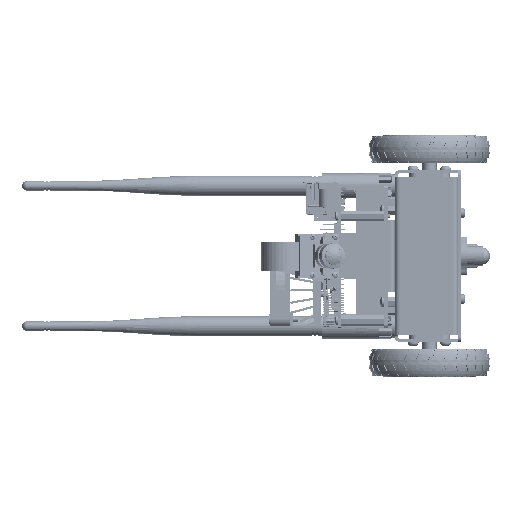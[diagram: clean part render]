
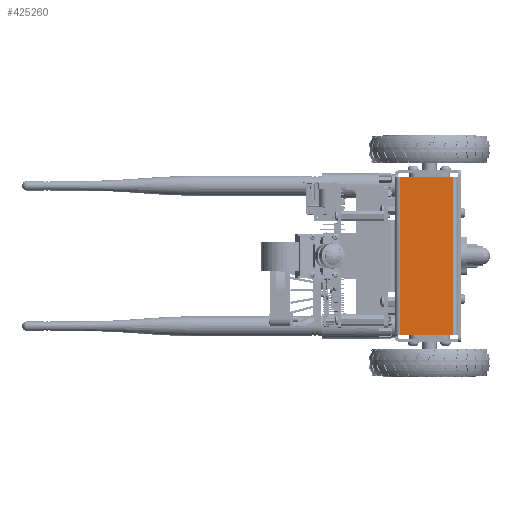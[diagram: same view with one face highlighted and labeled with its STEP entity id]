
A CAD part, left-side view. The second image highlights one B-rep face of the part: STEP entity #425260.
In plain terms, the highlighted planar face has unit normal (-1, 0, 0).
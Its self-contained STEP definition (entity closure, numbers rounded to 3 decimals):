
#17808 = LINE ( 'NONE', #261583, #555454 ) ;
#22837 = DIRECTION ( 'NONE',  ( 0., 0., 1. ) ) ;
#99096 = EDGE_CURVE ( 'NONE', #776091, #650578, #17808, .T. ) ;
#149351 = LINE ( 'NONE', #286875, #472025 ) ;
#178369 = DIRECTION ( 'NONE',  ( 0., -1., 0. ) ) ;
#197878 = EDGE_CURVE ( 'NONE', #650578, #247969, #945338, .T. ) ;
#247969 = VERTEX_POINT ( 'NONE', #929988 ) ;
#259678 = CARTESIAN_POINT ( 'NONE',  ( -66.8, -2.8, 43.8 ) ) ;
#261583 = CARTESIAN_POINT ( 'NONE',  ( -66.8, -2.8, -43.8 ) ) ;
#263286 = CARTESIAN_POINT ( 'NONE',  ( -66.8, -2.8, -43.8 ) ) ;
#277763 = ORIENTED_EDGE ( 'NONE', *, *, #197878, .F. ) ;
#286875 = CARTESIAN_POINT ( 'NONE',  ( -66.8, -32.3, -43.8 ) ) ;
#343072 = VERTEX_POINT ( 'NONE', #758876 ) ;
#394126 = FACE_OUTER_BOUND ( 'NONE', #944912, .T. ) ;
#413003 = DIRECTION ( 'NONE',  ( 0., 0., 1. ) ) ;
#425260 = ADVANCED_FACE ( 'NONE', ( #394126 ), #803891, .T. ) ;
#472025 = VECTOR ( 'NONE', #520502, 1000. ) ;
#483202 = LINE ( 'NONE', #874087, #656539 ) ;
#520502 = DIRECTION ( 'NONE',  ( 0., 0., -1. ) ) ;
#555454 = VECTOR ( 'NONE', #22837, 1000. ) ;
#557099 = CARTESIAN_POINT ( 'NONE',  ( -66.8, -2.8, 43.8 ) ) ;
#595425 = VECTOR ( 'NONE', #788008, 1000. ) ;
#646541 = DIRECTION ( 'NONE',  ( -1., 0., 0. ) ) ;
#650578 = VERTEX_POINT ( 'NONE', #557099 ) ;
#656539 = VECTOR ( 'NONE', #178369, 1000. ) ;
#669799 = EDGE_CURVE ( 'NONE', #247969, #343072, #149351, .T. ) ;
#672332 = AXIS2_PLACEMENT_3D ( 'NONE', #1003486, #646541, #413003 ) ;
#758876 = CARTESIAN_POINT ( 'NONE',  ( -66.8, -32.3, -43.8 ) ) ;
#765952 = ORIENTED_EDGE ( 'NONE', *, *, #669799, .F. ) ;
#776091 = VERTEX_POINT ( 'NONE', #263286 ) ;
#788008 = DIRECTION ( 'NONE',  ( 0., -1., 0. ) ) ;
#803891 = PLANE ( 'NONE',  #672332 ) ;
#812956 = EDGE_CURVE ( 'NONE', #776091, #343072, #483202, .T. ) ;
#823193 = ORIENTED_EDGE ( 'NONE', *, *, #99096, .F. ) ;
#828809 = ORIENTED_EDGE ( 'NONE', *, *, #812956, .T. ) ;
#874087 = CARTESIAN_POINT ( 'NONE',  ( -66.8, -2.8, -43.8 ) ) ;
#929988 = CARTESIAN_POINT ( 'NONE',  ( -66.8, -32.3, 43.8 ) ) ;
#944912 = EDGE_LOOP ( 'NONE', ( #277763, #823193, #828809, #765952 ) ) ;
#945338 = LINE ( 'NONE', #259678, #595425 ) ;
#1003486 = CARTESIAN_POINT ( 'NONE',  ( -66.8, 0., 0. ) ) ;
